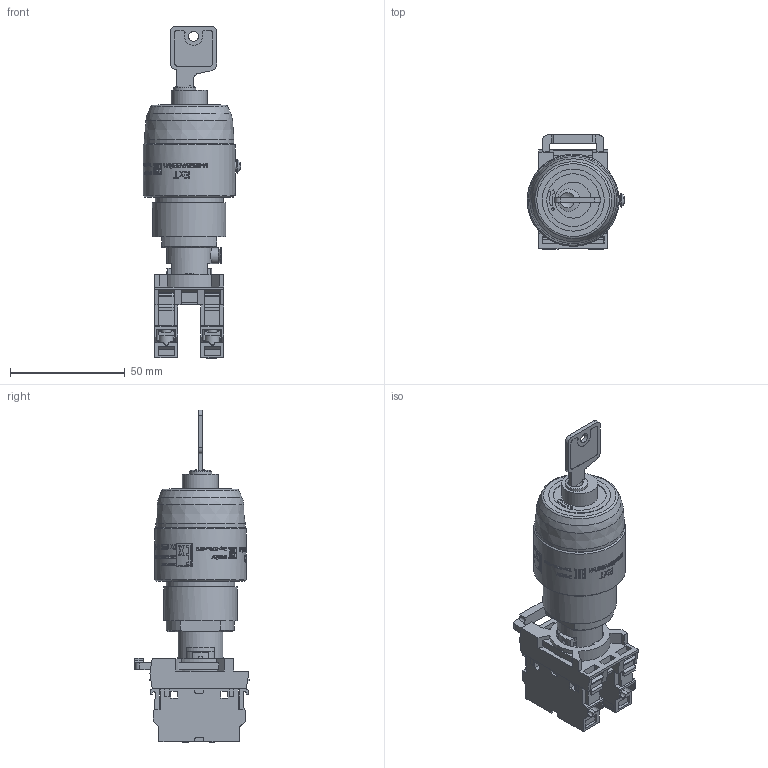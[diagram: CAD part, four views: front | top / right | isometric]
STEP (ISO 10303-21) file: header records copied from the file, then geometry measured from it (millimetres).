
FILE_DESCRIPTION((''),'2;1');
FILE_NAME('\\192.168.5.25\cortem_klient\INVENTOR БАЗА МОДЕЛЕЙ\Актуальная база моделей для отдела продаж\Элементы управления и индикации\КГВ05\КГВ05.stp','2019-04-09T16:15:44',('A.S.Kozlov'),(''),'Autodesk Inventor 2012','Autodesk Inventor 2012','');
FILE_SCHEMA(('CONFIG_CONTROL_DESIGN'));
Length unit declared in the file: millimetre
Products named in the file (1): M-0588_ABB_M1_Внешний контур_1
Bounding box: 42.43 x 49.65 x 144.55 mm (x, y, z)
Surface area: 30284.1 mm2 (no closed solid volume)
Topology: 0 solids, 77 shells, 521 faces, 3162 edges, 2646 vertices
Faces by surface type: plane 392, cylinder 93, cone 24, bspline 6, sphere 5, torus 1
Full cylindrical faces by diameter (mm): 3.75 x1, 4 x4, 4.3 x1, 6.2 x4, 6.5 x4, 7 x1, 9.8 x1, 14.3 x1, 15.7 x1, 15.8 x2, 19.8 x1, 23 x1, 29.75 x1, 32 x1, 39 x1, 40 x1
Entity records: 83129 total; most frequent: CARTESIAN_POINT 60657, ORIENTED_EDGE 4203, DIRECTION 3506, EDGE_CURVE 3098, VERTEX_POINT 2621, VECTOR 1562, LINE 1562, B_SPLINE_CURVE_WITH_KNOTS 983
